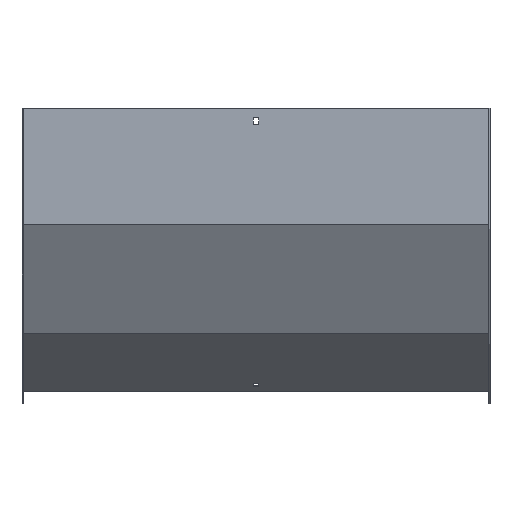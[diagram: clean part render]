
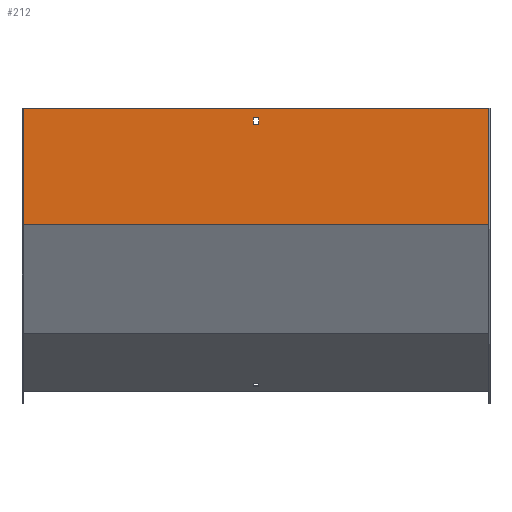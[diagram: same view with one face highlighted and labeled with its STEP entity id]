
A CAD part, front view. The second image highlights one B-rep face of the part: STEP entity #212.
In plain terms, the highlighted planar face has unit normal (0, -1, 0).
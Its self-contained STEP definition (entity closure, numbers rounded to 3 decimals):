
#32 = CARTESIAN_POINT ( 'NONE',  ( 300., -1.5, -150.102 ) ) ;
#33 = LINE ( 'NONE', #681, #398 ) ;
#34 = DIRECTION ( 'NONE',  ( 0., 0., 1. ) ) ;
#71 = ORIENTED_EDGE ( 'NONE', *, *, #602, .F. ) ;
#79 = CARTESIAN_POINT ( 'NONE',  ( -300., -1.5, 0. ) ) ;
#108 = ORIENTED_EDGE ( 'NONE', *, *, #463, .T. ) ;
#120 = ORIENTED_EDGE ( 'NONE', *, *, #129, .F. ) ;
#129 = EDGE_CURVE ( 'NONE', #436, #137, #33, .T. ) ;
#130 = ORIENTED_EDGE ( 'NONE', *, *, #134, .F. ) ;
#134 = EDGE_CURVE ( 'NONE', #688, #785, #172, .T. ) ;
#135 = EDGE_LOOP ( 'NONE', ( #108, #120, #698, #508 ) ) ;
#137 = VERTEX_POINT ( 'NONE', #220 ) ;
#156 = CARTESIAN_POINT ( 'NONE',  ( -3.25, -1.5, -12. ) ) ;
#172 = LINE ( 'NONE', #427, #596 ) ;
#194 = CARTESIAN_POINT ( 'NONE',  ( -3.25, -1.5, 0. ) ) ;
#212 = ADVANCED_FACE ( 'NONE', ( #224, #685 ), #623, .F. ) ;
#220 = CARTESIAN_POINT ( 'NONE',  ( -300., -1.5, -150.102 ) ) ;
#224 = FACE_OUTER_BOUND ( 'NONE', #135, .T. ) ;
#265 = DIRECTION ( 'NONE',  ( -1., 0., 0. ) ) ;
#295 = VECTOR ( 'NONE', #449, 1000. ) ;
#302 = DIRECTION ( 'NONE',  ( 0., 1., 0. ) ) ;
#305 = VERTEX_POINT ( 'NONE', #679 ) ;
#328 = ORIENTED_EDGE ( 'NONE', *, *, #671, .F. ) ;
#332 = DIRECTION ( 'NONE',  ( 0., 0., -1. ) ) ;
#337 = EDGE_LOOP ( 'NONE', ( #71, #130, #328, #672 ) ) ;
#338 = LINE ( 'NONE', #401, #781 ) ;
#349 = DIRECTION ( 'NONE',  ( 1., 0., 0. ) ) ;
#398 = VECTOR ( 'NONE', #817, 1000. ) ;
#401 = CARTESIAN_POINT ( 'NONE',  ( -300., -1.5, 0. ) ) ;
#408 = CARTESIAN_POINT ( 'NONE',  ( 300., -1.5, 0. ) ) ;
#427 = CARTESIAN_POINT ( 'NONE',  ( 301.5, -1.5, -21. ) ) ;
#429 = VECTOR ( 'NONE', #332, 1000. ) ;
#436 = VERTEX_POINT ( 'NONE', #32 ) ;
#449 = DIRECTION ( 'NONE',  ( 0., 0., 1. ) ) ;
#453 = LINE ( 'NONE', #706, #295 ) ;
#457 = LINE ( 'NONE', #711, #561 ) ;
#463 = EDGE_CURVE ( 'NONE', #506, #137, #338, .T. ) ;
#506 = VERTEX_POINT ( 'NONE', #79 ) ;
#508 = ORIENTED_EDGE ( 'NONE', *, *, #676, .T. ) ;
#525 = VERTEX_POINT ( 'NONE', #156 ) ;
#528 = EDGE_CURVE ( 'NONE', #842, #436, #600, .T. ) ;
#561 = VECTOR ( 'NONE', #854, 1000. ) ;
#580 = LINE ( 'NONE', #848, #722 ) ;
#586 = DIRECTION ( 'NONE',  ( 0., 0., -1. ) ) ;
#590 = DIRECTION ( 'NONE',  ( 0., 0., -1. ) ) ;
#594 = CARTESIAN_POINT ( 'NONE',  ( -3.25, -1.5, -21. ) ) ;
#596 = VECTOR ( 'NONE', #349, 1000. ) ;
#600 = LINE ( 'NONE', #786, #646 ) ;
#602 = EDGE_CURVE ( 'NONE', #785, #305, #453, .T. ) ;
#610 = AXIS2_PLACEMENT_3D ( 'NONE', #758, #302, #34 ) ;
#623 = PLANE ( 'NONE',  #610 ) ;
#646 = VECTOR ( 'NONE', #590, 1000. ) ;
#655 = LINE ( 'NONE', #194, #429 ) ;
#671 = EDGE_CURVE ( 'NONE', #525, #688, #655, .T. ) ;
#672 = ORIENTED_EDGE ( 'NONE', *, *, #694, .F. ) ;
#676 = EDGE_CURVE ( 'NONE', #842, #506, #457, .T. ) ;
#679 = CARTESIAN_POINT ( 'NONE',  ( 3.25, -1.5, -12. ) ) ;
#681 = CARTESIAN_POINT ( 'NONE',  ( 301.5, -1.5, -150.102 ) ) ;
#685 = FACE_BOUND ( 'NONE', #337, .T. ) ;
#688 = VERTEX_POINT ( 'NONE', #594 ) ;
#694 = EDGE_CURVE ( 'NONE', #305, #525, #580, .T. ) ;
#698 = ORIENTED_EDGE ( 'NONE', *, *, #528, .F. ) ;
#706 = CARTESIAN_POINT ( 'NONE',  ( 3.25, -1.5, 0. ) ) ;
#711 = CARTESIAN_POINT ( 'NONE',  ( 301.5, -1.5, 0. ) ) ;
#722 = VECTOR ( 'NONE', #265, 1000. ) ;
#731 = CARTESIAN_POINT ( 'NONE',  ( 3.25, -1.5, -21. ) ) ;
#758 = CARTESIAN_POINT ( 'NONE',  ( 301.5, -1.5, 0. ) ) ;
#781 = VECTOR ( 'NONE', #586, 1000. ) ;
#785 = VERTEX_POINT ( 'NONE', #731 ) ;
#786 = CARTESIAN_POINT ( 'NONE',  ( 300., -1.5, 0. ) ) ;
#817 = DIRECTION ( 'NONE',  ( -1., 0., 0. ) ) ;
#842 = VERTEX_POINT ( 'NONE', #408 ) ;
#848 = CARTESIAN_POINT ( 'NONE',  ( 301.5, -1.5, -12. ) ) ;
#854 = DIRECTION ( 'NONE',  ( -1., 0., 0. ) ) ;
